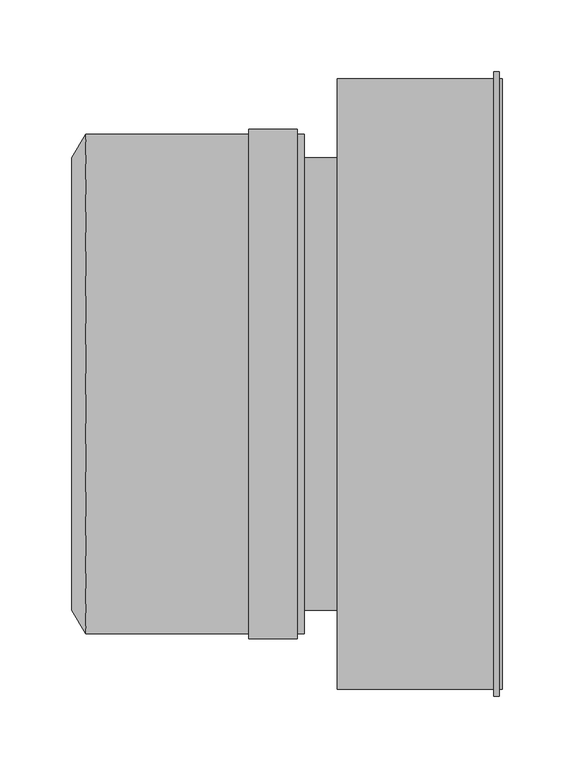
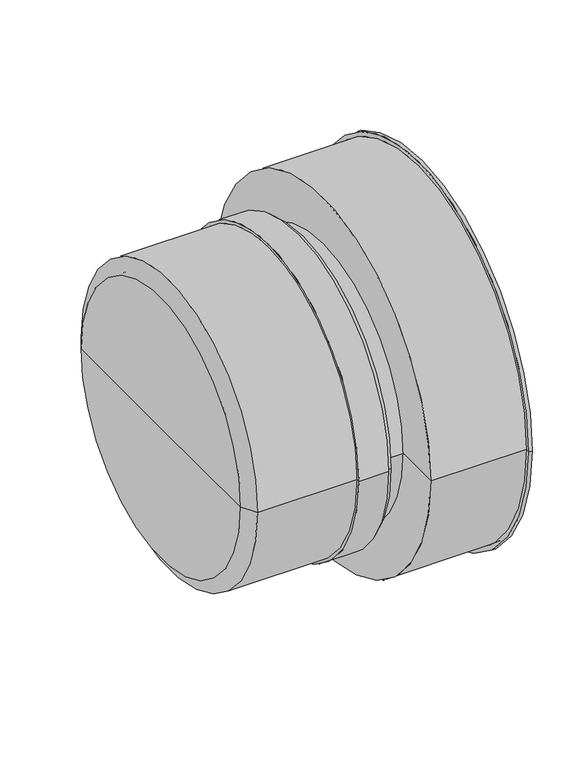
"""IFC4 building model written with IfcOpenShell, lengths in millimetres: pipe fitting geometry, pf_KGUS : pf_KGUS."""

from ifc_helpers import new_model, si_unit, point, frame, origin, origin_2d, place, context, project, spatial, polyline, circle_curve, trimmed, segment, composite_curve, outline, extrude, source, transform, mapped, element, save
from ifc_brep_helpers import plane_surface, cylinder_surface, revolved_surface, advanced_brep


def pipe_fitting_e22430f9(model_context):
    return source(origin(), model_context, "Body", "SolidModel", [
        advanced_brep(
        [(-184.9, 157.5, 0.0), (-184.9, -157.5, 0.0), (-175.0, -174.1, 0.0), (-175.0, 174.1, 0.0), (-184.9, 0.0, 0.0), (-22.9, 174.1, 0.0), (-22.9, -174.1, 0.0), (-22.9, -157.5, 0.0), (-22.9, 157.5, 0.0), (-27.7, 174.1, 0.0), (-27.7, -174.1, 0.0), (-27.7, 177.5, 0.0), (-27.7, -177.5, 0.0), (-61.6, 177.5, 0.0), (-61.6, -177.5, 0.0), (-61.6, 174.1, 0.0), (-61.6, -174.1, 0.0), (-175.0, 157.5, 0.0), (-175.0, -157.5, 0.0), (-175.0, 0.0, 0.0)],
        [
            (0, 1, circle_curve(frame((-184.9, 0.0, 0.0), z_axis=(1.0, 0.0, 0.0), x_axis=(0.0, -1.0, 0.0)), 157.5)),
            (1, 2),
            (2, 3, circle_curve(frame((-175.0, 0.0, 0.0), z_axis=(-1.0, 0.0, 0.0), x_axis=(0.0, -1.0, 0.0)), 174.1)),
            (3, 0),
            (1, 0, circle_curve(frame((-184.9, 0.0, 0.0), z_axis=(1.0, 0.0, 0.0), x_axis=(0.0, -1.0, 0.0)), 157.5)),
            (3, 2, circle_curve(frame((-175.0, 0.0, 0.0), z_axis=(-1.0, 0.0, 0.0), x_axis=(0.0, -1.0, 0.0)), 174.1)),
            (4, 1),
            (0, 4),
            (5, 6, circle_curve(frame((-22.9, 0.0, 0.0), z_axis=(1.0, 0.0, 0.0), x_axis=(0.0, -1.0, 0.0)), 174.1)),
            (6, 7),
            (7, 8, circle_curve(frame((-22.9, 0.0, 0.0), z_axis=(-1.0, 0.0, 0.0), x_axis=(0.0, -1.0, 0.0)), 157.5)),
            (8, 5),
            (6, 5, circle_curve(frame((-22.9, 0.0, 0.0), z_axis=(1.0, 0.0, 0.0), x_axis=(0.0, -1.0, 0.0)), 174.1)),
            (8, 7, circle_curve(frame((-22.9, 0.0, 0.0), z_axis=(-1.0, 0.0, 0.0), x_axis=(0.0, -1.0, 0.0)), 157.5)),
            (9, 10, circle_curve(frame((-27.7, 0.0, 0.0), z_axis=(1.0, 0.0, 0.0), x_axis=(0.0, -1.0, 0.0)), 174.1)),
            (10, 6),
            (5, 9),
            (10, 9, circle_curve(frame((-27.7, 0.0, 0.0), z_axis=(1.0, 0.0, 0.0), x_axis=(0.0, -1.0, 0.0)), 174.1)),
            (11, 12, circle_curve(frame((-27.7, 0.0, 0.0), z_axis=(1.0, 0.0, 0.0), x_axis=(0.0, -1.0, 0.0)), 177.5)),
            (12, 10),
            (9, 11),
            (12, 11, circle_curve(frame((-27.7, 0.0, 0.0), z_axis=(1.0, 0.0, 0.0), x_axis=(0.0, -1.0, 0.0)), 177.5)),
            (13, 14, circle_curve(frame((-61.6, 0.0, 0.0), z_axis=(1.0, 0.0, 0.0), x_axis=(0.0, -1.0, 0.0)), 177.5)),
            (14, 12),
            (11, 13),
            (14, 13, circle_curve(frame((-61.6, 0.0, 0.0), z_axis=(1.0, 0.0, 0.0), x_axis=(0.0, -1.0, 0.0)), 177.5)),
            (15, 16, circle_curve(frame((-61.6, 0.0, 0.0), z_axis=(1.0, 0.0, 0.0), x_axis=(0.0, -1.0, 0.0)), 174.1)),
            (16, 14),
            (13, 15),
            (16, 15, circle_curve(frame((-61.6, 0.0, 0.0), z_axis=(1.0, 0.0, 0.0), x_axis=(0.0, -1.0, 0.0)), 174.1)),
            (2, 16),
            (15, 3),
            (17, 18, circle_curve(frame((-175.0, 0.0, 0.0), z_axis=(1.0, 0.0, 0.0), x_axis=(0.0, -1.0, 0.0)), 157.5)),
            (18, 19),
            (19, 17),
            (18, 17, circle_curve(frame((-175.0, 0.0, 0.0), z_axis=(1.0, 0.0, 0.0), x_axis=(0.0, -1.0, 0.0)), 157.5)),
            (7, 18),
            (17, 8),
        ],
        [
            revolved_surface(polyline([(-175.0, -174.1, 0.0), (-184.9, -157.5, 0.0)]), (-184.9, 0.0, 0.0), (-1.0, 0.0, 0.0)),
            plane_surface(frame((-184.9, 0.0, 0.0), z_axis=(-1.0, 0.0, 0.0), x_axis=(0.0, -1.0, 0.0))),
            plane_surface(frame((-22.9, 0.0, 0.0), z_axis=(1.0, 0.0, 0.0), x_axis=(0.0, -1.0, 0.0))),
            cylinder_surface(frame((-184.9, 0.0, 0.0), z_axis=(-1.0, 0.0, 0.0), x_axis=(0.0, -1.0, 0.0)), 174.1),
            plane_surface(frame((-27.7, 0.0, 0.0), z_axis=(1.0, 0.0, 0.0), x_axis=(0.0, -1.0, 0.0))),
            cylinder_surface(frame((-184.9, 0.0, 0.0), z_axis=(-1.0, 0.0, 0.0), x_axis=(0.0, -1.0, 0.0)), 177.5),
            plane_surface(frame((-61.6, 0.0, 0.0), z_axis=(-1.0, 0.0, 0.0), x_axis=(0.0, -1.0, 0.0))),
            plane_surface(frame((-175.0, 0.0, 0.0), z_axis=(1.0, 0.0, 0.0), x_axis=(0.0, -1.0, 0.0))),
            revolved_surface(polyline([(-175.0, -157.5, 0.0), (-22.900000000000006, -157.5, 0.0)]), (-184.9, 0.0, 0.0), (-1.0, 0.0, 0.0)),
        ],
        [
            (0, [[1, 2, 3, 4]]),
            (0, [[5, -4, 6, -2]]),
            (1, [[7, -1, 8]]),
            (1, [[-8, -5, -7]]),
            (2, [[9, 10, 11, 12]]),
            (2, [[13, -12, 14, -10]]),
            (3, [[15, 16, -9, 17]]),
            (3, [[18, -17, -13, -16]]),
            (4, [[19, 20, -15, 21]]),
            (4, [[22, -21, -18, -20]]),
            (5, [[23, 24, -19, 25]]),
            (5, [[26, -25, -22, -24]]),
            (6, [[27, 28, -23, 29]]),
            (6, [[30, -29, -26, -28]]),
            (3, [[-3, 31, -27, 32]]),
            (3, [[-6, -32, -30, -31]]),
            (7, [[33, 34, 35]]),
            (7, [[36, -35, -34]]),
            (8, [[-11, 37, -33, 38]]),
            (8, [[-14, -38, -36, -37]]),
        ],
    ),
        extrude(outline(composite_curve([segment(trimmed(circle_curve(origin_2d(), 157.5), [point((-157.5, 0.0))], [point((157.5, 0.0))], False, "CARTESIAN"), True, "CONTINUOUS"), segment(trimmed(circle_curve(origin_2d(), 157.5), [point((157.5, 0.0))], [point((-157.5, 0.0))], False, "CARTESIAN"), True, "CONTINUOUS")], self_intersect=False)), frame((-22.9, 0.0, 0.0), z_axis=(1.0, 0.0, 0.0), x_axis=(0.0, 1.0, 0.0)), (0.0, 0.0, 1.0), 22.9),
        advanced_brep(
        [(115.0, -208.5, 0.0), (115.0, 208.5, 0.0), (30.0, 208.5, 0.0), (30.0, -208.5, 0.0), (113.0, -212.5, 0.0), (113.0, 212.5, 0.0), (115.0, 212.5, 0.0), (115.0, -212.5, 0.0), (0.0, 0.0, 0.0), (0.0, 212.5, 0.0), (0.0, -212.5, 0.0), (30.0, 0.0, 0.0), (109.0, -217.5, 0.0), (109.0, 217.5, 0.0), (113.0, 217.5, 0.0), (113.0, -217.5, 0.0), (109.0, 212.5, 0.0), (109.0, -212.5, 0.0)],
        [
            (0, 1, circle_curve(frame((115.0, 0.0, 0.0), z_axis=(1.0, 0.0, 0.0), x_axis=(0.0, 1.0, 0.0)), 208.5)),
            (1, 2),
            (2, 3, circle_curve(frame((30.0, 0.0, 0.0), z_axis=(-1.0, 0.0, 0.0), x_axis=(0.0, 1.0, 0.0)), 208.5)),
            (3, 0),
            (4, 5, circle_curve(frame((113.0, 0.0, 0.0), z_axis=(1.0, 0.0, 0.0), x_axis=(0.0, 1.0, 0.0)), 212.5)),
            (5, 6),
            (6, 7, circle_curve(frame((115.0, 0.0, 0.0), z_axis=(-1.0, 0.0, 0.0), x_axis=(0.0, 1.0, 0.0)), 212.5)),
            (7, 4),
            (8, 9),
            (9, 10, circle_curve(frame((0.0, 0.0, 0.0), z_axis=(-1.0, 0.0, 0.0), x_axis=(0.0, 1.0, 0.0)), 212.5)),
            (10, 8),
            (1, 0, circle_curve(frame((115.0, 0.0, 0.0), z_axis=(1.0, 0.0, 0.0), x_axis=(0.0, 1.0, 0.0)), 208.5)),
            (3, 2, circle_curve(frame((30.0, 0.0, 0.0), z_axis=(-1.0, 0.0, 0.0), x_axis=(0.0, 1.0, 0.0)), 208.5)),
            (5, 4, circle_curve(frame((113.0, 0.0, 0.0), z_axis=(1.0, 0.0, 0.0), x_axis=(0.0, 1.0, 0.0)), 212.5)),
            (7, 6, circle_curve(frame((115.0, 0.0, 0.0), z_axis=(-1.0, 0.0, 0.0), x_axis=(0.0, 1.0, 0.0)), 212.5)),
            (10, 9, circle_curve(frame((0.0, 0.0, 0.0), z_axis=(-1.0, 0.0, 0.0), x_axis=(0.0, 1.0, 0.0)), 212.5)),
            (2, 11),
            (11, 3),
            (6, 1),
            (0, 7),
            (12, 13, circle_curve(frame((109.0, 0.0, 0.0), z_axis=(1.0, 0.0, 0.0), x_axis=(0.0, 1.0, 0.0)), 217.5)),
            (13, 14),
            (14, 15, circle_curve(frame((113.0, 0.0, 0.0), z_axis=(-1.0, 0.0, 0.0), x_axis=(0.0, 1.0, 0.0)), 217.5)),
            (15, 12),
            (13, 12, circle_curve(frame((109.0, 0.0, 0.0), z_axis=(1.0, 0.0, 0.0), x_axis=(0.0, 1.0, 0.0)), 217.5)),
            (15, 14, circle_curve(frame((113.0, 0.0, 0.0), z_axis=(-1.0, 0.0, 0.0), x_axis=(0.0, 1.0, 0.0)), 217.5)),
            (9, 16),
            (16, 17, circle_curve(frame((109.0, 0.0, 0.0), z_axis=(-1.0, 0.0, 0.0), x_axis=(0.0, 1.0, 0.0)), 212.5)),
            (17, 10),
            (17, 16, circle_curve(frame((109.0, 0.0, 0.0), z_axis=(-1.0, 0.0, 0.0), x_axis=(0.0, 1.0, 0.0)), 212.5)),
            (14, 5),
            (4, 15),
            (16, 13),
            (12, 17),
        ],
        [
            revolved_surface(polyline([(30.0, 208.5, 0.0), (115.0, 208.5, 0.0)]), (118.0, 0.0, 0.0), (-1.0, 0.0, 0.0)),
            cylinder_surface(frame((118.0, 0.0, 0.0), z_axis=(-1.0, 0.0, 0.0), x_axis=(0.0, 1.0, 0.0)), 212.5),
            plane_surface(frame((0.0, 0.0, 0.0), z_axis=(-1.0, 0.0, 0.0), x_axis=(0.0, 1.0, 0.0))),
            plane_surface(frame((30.0, 0.0, 0.0), z_axis=(1.0, 0.0, 0.0), x_axis=(0.0, 1.0, 0.0))),
            plane_surface(frame((115.0, 0.0, 0.0), z_axis=(1.0, 0.0, 0.0), x_axis=(0.0, 1.0, 0.0))),
            cylinder_surface(frame((118.0, 0.0, 0.0), z_axis=(-1.0, 0.0, 0.0), x_axis=(0.0, 1.0, 0.0)), 217.5),
            plane_surface(frame((113.0, 0.0, 0.0), z_axis=(1.0, 0.0, 0.0), x_axis=(0.0, 1.0, 0.0))),
            plane_surface(frame((109.0, 0.0, 0.0), z_axis=(-1.0, 0.0, 0.0), x_axis=(0.0, 1.0, 0.0))),
        ],
        [
            (0, [[1, 2, 3, 4]]),
            (1, [[5, 6, 7, 8]]),
            (2, [[9, 10, 11]]),
            (0, [[12, -4, 13, -2]]),
            (1, [[14, -8, 15, -6]]),
            (2, [[-11, 16, -9]]),
            (3, [[-3, 17, 18]]),
            (3, [[-13, -18, -17]]),
            (4, [[-7, 19, -1, 20]]),
            (4, [[-15, -20, -12, -19]]),
            (5, [[21, 22, 23, 24]]),
            (5, [[25, -24, 26, -22]]),
            (1, [[-10, 27, 28, 29]]),
            (1, [[-16, -29, 30, -27]]),
            (6, [[-23, 31, -5, 32]]),
            (6, [[-26, -32, -14, -31]]),
            (7, [[-28, 33, -21, 34]]),
            (7, [[-30, -34, -25, -33]]),
        ],
    ),
    ])


if __name__ == "__main__":
    model = new_model("IFC4")
    model_context = context("Model", 3, world=origin())
    ifc_project = project(units=[si_unit("LENGTHUNIT", "METRE", prefix="MILLI")], contexts=[model_context])
    site = spatial("IfcSite", under=ifc_project)
    building = spatial("IfcBuilding", under=site)
    placement = place(None, origin())
    pipe_fitting_shape = pipe_fitting_e22430f9(model_context)
    element("IfcPipeFitting", 1, ObjectType="pf_KGUS : pf_KGUS", at=placement, inside=building, context=model_context, shape_type="MappedRepresentation", body=[
        mapped(pipe_fitting_shape, transform((0.0, 0.0, 0.0), x_axis=(1.0, 0.0, 0.0), y_axis=(0.0, 1.0, 0.0), z_axis=(0.0, 0.0, 1.0))),
    ])
    save(model, "model.ifc")
